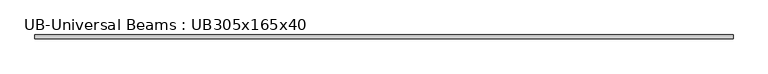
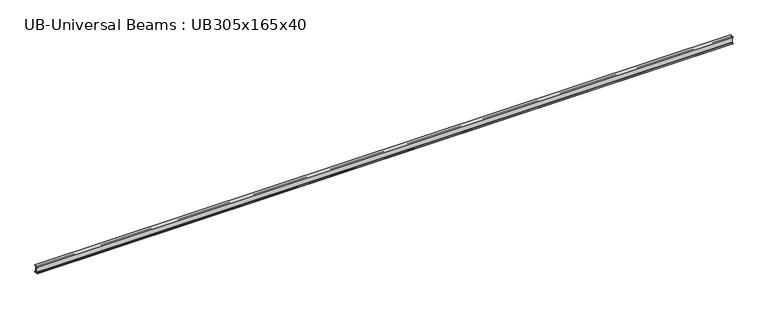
"""IFC4 building model written with IfcOpenShell, lengths in millimetres: beam geometry, UB-Universal Beams : UB305x165x40."""

from ifc_helpers import new_model, si_unit, point, frame, frame_2d, origin, place, context, project, spatial, polyline, circle_curve, trimmed, segment, composite_curve, outline, extrude, source, transform, mapped, element, save


def ub_universal_beams_ub305x165x40_b91aa233(model_context):
    return source(origin(), model_context, "Body", "SweptSolid", [
        extrude(outline(composite_curve([segment(polyline([(82.5, -141.5), (82.5, -151.7), (-82.5, -151.7), (-82.5, -141.5), (-11.9, -141.5)]), True, "CONTINUOUS"), segment(trimmed(circle_curve(frame_2d((-11.9, -132.6)), 8.9), [point((-11.9, -141.5))], [point((-3.0, -132.6))], True, "CARTESIAN"), True, "CONTINUOUS"), segment(polyline([(-3.0, -132.6), (-3.0, 132.6)]), True, "CONTINUOUS"), segment(trimmed(circle_curve(frame_2d((-11.9, 132.6)), 8.9), [point((-3.0, 132.6))], [point((-11.9, 141.5))], True, "CARTESIAN"), True, "CONTINUOUS"), segment(polyline([(-11.9, 141.5), (-82.5, 141.5), (-82.5, 151.7), (82.5, 151.7), (82.5, 141.5), (11.9, 141.5)]), True, "CONTINUOUS"), segment(trimmed(circle_curve(frame_2d((11.9, 132.6)), 8.9), [point((11.9, 141.5))], [point((3.0, 132.6))], True, "CARTESIAN"), True, "CONTINUOUS"), segment(polyline([(3.0, 132.6), (3.0, -132.6)]), True, "CONTINUOUS"), segment(trimmed(circle_curve(frame_2d((11.9, -132.6)), 8.9), [point((3.0, -132.6))], [point((11.9, -141.5))], True, "CARTESIAN"), True, "CONTINUOUS"), segment(polyline([(11.9, -141.5), (82.5, -141.5)]), True, "CONTINUOUS")], self_intersect=False)), frame((-15033.25, 0.0, 0.0), z_axis=(1.0, 0.0, 0.0), x_axis=(0.0, 1.0, 0.0)), (0.0, 0.0, 1.0), 30066.5),
    ])


if __name__ == "__main__":
    model = new_model("IFC4")
    model_context = context("Model", 3, world=origin())
    ifc_project = project(units=[si_unit("LENGTHUNIT", "METRE", prefix="MILLI")], contexts=[model_context])
    site = spatial("IfcSite", under=ifc_project)
    building = spatial("IfcBuilding", under=site)
    placement = place(None, origin())
    ub_universal_beams_ub305x165x40_shape = ub_universal_beams_ub305x165x40_b91aa233(model_context)
    element("IfcBeam", 1, ObjectType="UB-Universal Beams : UB305x165x40", at=placement, inside=building, context=model_context, shape_type="MappedRepresentation", body=[
        mapped(ub_universal_beams_ub305x165x40_shape, transform((0.0, 0.0, 0.0), x_axis=(1.0, 0.0, 0.0), y_axis=(0.0, 1.0, 0.0), z_axis=(0.0, 0.0, 1.0))),
    ])
    save(model, "model.ifc")
